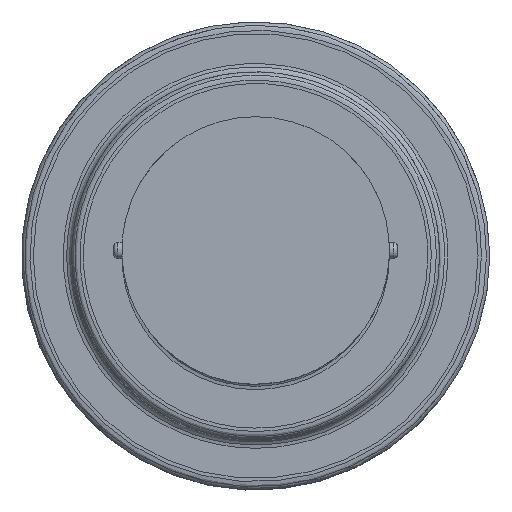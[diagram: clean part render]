
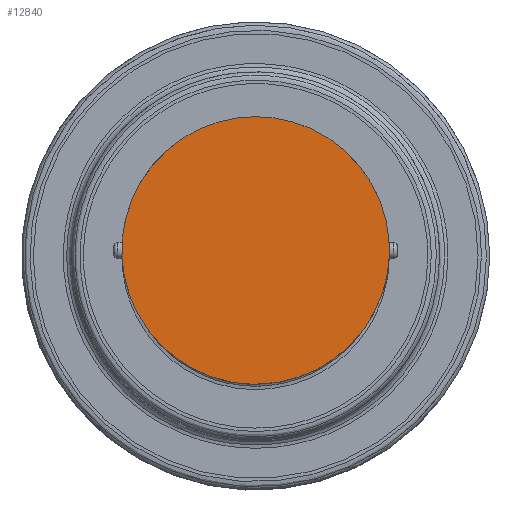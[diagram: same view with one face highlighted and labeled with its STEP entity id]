
A CAD part, top view. The second image highlights one B-rep face of the part: STEP entity #12840.
In plain terms, the highlighted free-form (B-spline) face has degree [1, 1] with [2, 2] control points.
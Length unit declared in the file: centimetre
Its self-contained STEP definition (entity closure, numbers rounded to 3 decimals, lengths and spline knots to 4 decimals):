
#12330 = CARTESIAN_POINT ('', (0., -4., 101.));
#12340 = VERTEX_POINT ('', #12330);
#12350 = CARTESIAN_POINT ('', (0., -4., 101.));
#12360 = CARTESIAN_POINT ('', (4., -4., 101.));
#12370 = CARTESIAN_POINT ('', (4., 0., 101.));
#12380 = CARTESIAN_POINT ('', (4., 4., 101.));
#12390 = CARTESIAN_POINT ('', (0., 4., 101.));
#12400 = CARTESIAN_POINT ('', (-4., 4., 101.));
#12410 = CARTESIAN_POINT ('', (-4., 0., 101.));
#12420 = CARTESIAN_POINT ('', (-4., -4., 101.));
#12430 = CARTESIAN_POINT ('', (0., -4., 101.));
#12440 = (
   BOUNDED_CURVE ()
   B_SPLINE_CURVE (2, (#12350, #12360, #12370, #12380, #12390, #12400, #12410, #12420, #12430), .UNSPECIFIED., .T., .U.)
   B_SPLINE_CURVE_WITH_KNOTS ((3, 2, 2, 2, 3), (0., 0.25, 0.5, 0.75, 1.), .UNSPECIFIED.)
   CURVE ()
   GEOMETRIC_REPRESENTATION_ITEM ()
   RATIONAL_B_SPLINE_CURVE ((1., 0.707, 1., 0.707, 1., 0.707, 1., 0.707, 1.))
   REPRESENTATION_ITEM ('')
);
#12450 = EDGE_CURVE ('', #12340, #12340, #12440, .T.);
#12760 = ORIENTED_EDGE ('', *, *, #12450, .T.);
#12770 = EDGE_LOOP ('', (#12760));
#12780 = FACE_OUTER_BOUND ('', #12770, .T.);
#12790 = CARTESIAN_POINT ('', (12.3791, -11.7359, 101.));
#12800 = CARTESIAN_POINT ('', (-11.3797, -11.7359, 101.));
#12810 = CARTESIAN_POINT ('', (12.3791, 12.0229, 101.));
#12820 = CARTESIAN_POINT ('', (-11.3797, 12.0229, 101.));
#12830 = B_SPLINE_SURFACE_WITH_KNOTS ('', 1, 1, ((#12790, #12800), (#12810, #12820)), .UNSPECIFIED., .F., .F., .U., (2, 2), (2, 2), (0., 1.), (0., 1.), .UNSPECIFIED.);
#12840 = ADVANCED_FACE ('', (#12780), #12830, .T.);
